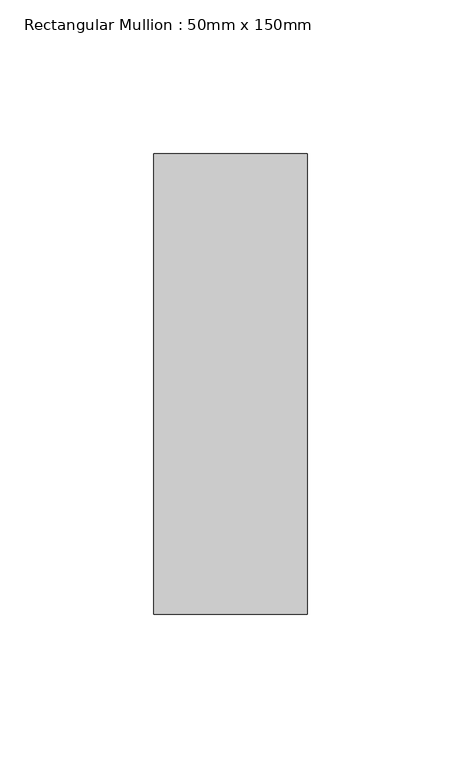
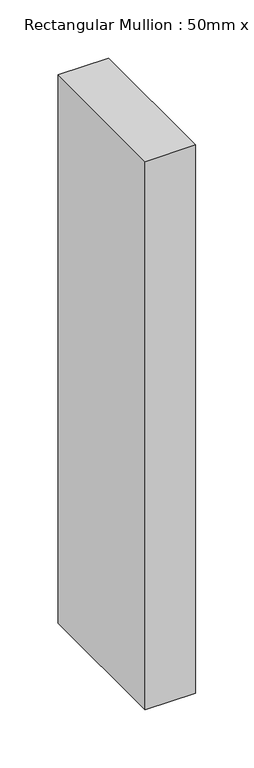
"""IFC4 building model written with IfcOpenShell, lengths in millimetres: member geometry, Rectangular Mullion : 50mm x 150mm."""

from ifc_helpers import new_model, si_unit, frame, origin, place, context, project, spatial, polyline, outline, extrude, source, transform, mapped, element, save


def rectangular_mullion_50mm_x_150mm_1a1f02c3(model_context):
    return source(origin(), model_context, "Body", "SweptSolid", [
        extrude(outline(polyline([(0.0, 75.0), (0.0, -75.0), (-50.0, -75.0), (-50.0, 75.0), (0.0, 75.0)])), frame((0.0, 0.0, -575.0), z_axis=(0.0, 0.0, 1.0), x_axis=(1.0, 0.0, 0.0)), (0.0, 0.0, 1.0), 575.0),
    ])


if __name__ == "__main__":
    model = new_model("IFC4")
    model_context = context("Model", 3, world=origin())
    ifc_project = project(units=[si_unit("LENGTHUNIT", "METRE", prefix="MILLI")], contexts=[model_context])
    site = spatial("IfcSite", under=ifc_project)
    building = spatial("IfcBuilding", under=site)
    placement = place(None, origin())
    rectangular_mullion_50mm_x_150mm_shape = rectangular_mullion_50mm_x_150mm_1a1f02c3(model_context)
    element("IfcMember", 1, ObjectType="Rectangular Mullion : 50mm x 150mm", at=placement, inside=building, context=model_context, shape_type="MappedRepresentation", body=[
        mapped(rectangular_mullion_50mm_x_150mm_shape, transform((0.0, 0.0, 0.0), x_axis=(1.0, 0.0, 0.0), y_axis=(0.0, 1.0, 0.0), z_axis=(0.0, 0.0, 1.0))),
    ])
    save(model, "model.ifc")
